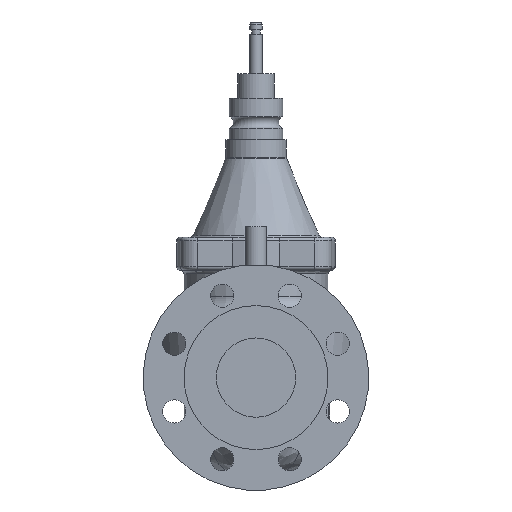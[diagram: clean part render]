
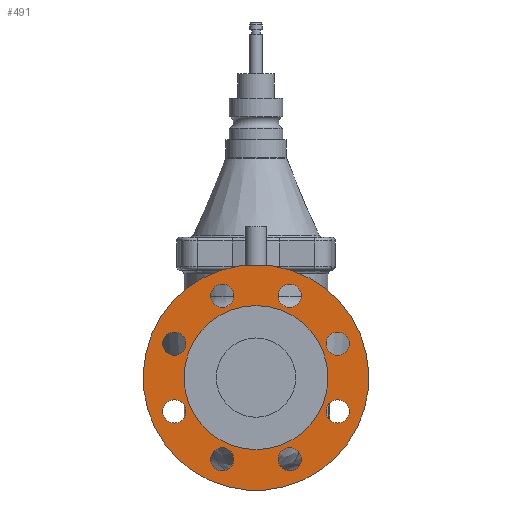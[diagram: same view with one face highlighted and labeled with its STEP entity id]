
A CAD part, left-side view. The second image highlights one B-rep face of the part: STEP entity #491.
In plain terms, the highlighted planar face has unit normal (-1, 0, 0).
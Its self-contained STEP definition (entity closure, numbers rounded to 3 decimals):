
#182=FACE_BOUND('',#932,.T.);
#183=FACE_BOUND('',#933,.T.);
#184=FACE_BOUND('',#934,.T.);
#185=FACE_BOUND('',#935,.T.);
#186=FACE_BOUND('',#936,.T.);
#187=FACE_BOUND('',#937,.T.);
#188=FACE_BOUND('',#938,.T.);
#189=FACE_BOUND('',#939,.T.);
#190=FACE_BOUND('',#940,.T.);
#191=FACE_BOUND('',#941,.T.);
#491=ADVANCED_FACE('',(#182,#183,#184,#185,#186,#187,#188,#189,#190,#191),
#648,.F.);
#648=PLANE('',#3229);
#932=EDGE_LOOP('',(#1530));
#933=EDGE_LOOP('',(#1531));
#934=EDGE_LOOP('',(#1532));
#935=EDGE_LOOP('',(#1533));
#936=EDGE_LOOP('',(#1534));
#937=EDGE_LOOP('',(#1535));
#938=EDGE_LOOP('',(#1536));
#939=EDGE_LOOP('',(#1537));
#940=EDGE_LOOP('',(#1538));
#941=EDGE_LOOP('',(#1539,#1540));
#1198=CIRCLE('',#3219,59.);
#1199=CIRCLE('',#3220,9.5);
#1200=CIRCLE('',#3221,9.5);
#1201=CIRCLE('',#3222,9.5);
#1202=CIRCLE('',#3223,9.5);
#1203=CIRCLE('',#3224,9.5);
#1204=CIRCLE('',#3225,9.5);
#1205=CIRCLE('',#3226,9.5);
#1206=CIRCLE('',#3227,9.5);
#1207=CIRCLE('',#3228,92.5);
#1530=ORIENTED_EDGE('',*,*,#2606,.F.);
#1531=ORIENTED_EDGE('',*,*,#2607,.T.);
#1532=ORIENTED_EDGE('',*,*,#2608,.T.);
#1533=ORIENTED_EDGE('',*,*,#2609,.T.);
#1534=ORIENTED_EDGE('',*,*,#2610,.T.);
#1535=ORIENTED_EDGE('',*,*,#2611,.T.);
#1536=ORIENTED_EDGE('',*,*,#2612,.T.);
#1537=ORIENTED_EDGE('',*,*,#2613,.T.);
#1538=ORIENTED_EDGE('',*,*,#2614,.T.);
#1539=ORIENTED_EDGE('',*,*,#2615,.F.);
#1540=ORIENTED_EDGE('',*,*,#2616,.T.);
#2322=VERTEX_POINT('',#5410);
#2323=VERTEX_POINT('',#5412);
#2324=VERTEX_POINT('',#5414);
#2325=VERTEX_POINT('',#5416);
#2326=VERTEX_POINT('',#5418);
#2327=VERTEX_POINT('',#5420);
#2328=VERTEX_POINT('',#5422);
#2329=VERTEX_POINT('',#5424);
#2330=VERTEX_POINT('',#5426);
#2331=VERTEX_POINT('',#5428);
#2332=VERTEX_POINT('',#5429);
#2606=EDGE_CURVE('',#2322,#2322,#1198,.T.);
#2607=EDGE_CURVE('',#2323,#2323,#1199,.T.);
#2608=EDGE_CURVE('',#2324,#2324,#1200,.T.);
#2609=EDGE_CURVE('',#2325,#2325,#1201,.T.);
#2610=EDGE_CURVE('',#2326,#2326,#1202,.T.);
#2611=EDGE_CURVE('',#2327,#2327,#1203,.T.);
#2612=EDGE_CURVE('',#2328,#2328,#1204,.T.);
#2613=EDGE_CURVE('',#2329,#2329,#1205,.T.);
#2614=EDGE_CURVE('',#2330,#2330,#1206,.T.);
#2615=EDGE_CURVE('',#2331,#2332,#2889,.T.);
#2616=EDGE_CURVE('',#2331,#2332,#1207,.T.);
#2889=LINE('',#5427,#3008);
#3008=VECTOR('',#3794,1.);
#3219=AXIS2_PLACEMENT_3D('',#5409,#3776,#3777);
#3220=AXIS2_PLACEMENT_3D('',#5411,#3778,#3779);
#3221=AXIS2_PLACEMENT_3D('',#5413,#3780,#3781);
#3222=AXIS2_PLACEMENT_3D('',#5415,#3782,#3783);
#3223=AXIS2_PLACEMENT_3D('',#5417,#3784,#3785);
#3224=AXIS2_PLACEMENT_3D('',#5419,#3786,#3787);
#3225=AXIS2_PLACEMENT_3D('',#5421,#3788,#3789);
#3226=AXIS2_PLACEMENT_3D('',#5423,#3790,#3791);
#3227=AXIS2_PLACEMENT_3D('',#5425,#3792,#3793);
#3228=AXIS2_PLACEMENT_3D('',#5430,#3795,#3796);
#3229=AXIS2_PLACEMENT_3D('',#5431,#3797,#3798);
#3776=DIRECTION('',(-1.,0.,0.));
#3777=DIRECTION('',(0.,0.,1.));
#3778=DIRECTION('',(1.,0.,0.));
#3779=DIRECTION('',(0.,0.,-1.));
#3780=DIRECTION('',(1.,0.,0.));
#3781=DIRECTION('',(0.,0.,-1.));
#3782=DIRECTION('',(1.,0.,0.));
#3783=DIRECTION('',(0.,0.,-1.));
#3784=DIRECTION('',(1.,0.,0.));
#3785=DIRECTION('',(0.,0.,-1.));
#3786=DIRECTION('',(1.,0.,0.));
#3787=DIRECTION('',(0.,0.,-1.));
#3788=DIRECTION('',(1.,0.,0.));
#3789=DIRECTION('',(0.,0.,-1.));
#3790=DIRECTION('',(1.,0.,0.));
#3791=DIRECTION('',(0.,0.,-1.));
#3792=DIRECTION('',(1.,0.,0.));
#3793=DIRECTION('',(0.,0.,-1.));
#3794=DIRECTION('',(0.,-1.,0.));
#3795=DIRECTION('',(-1.,0.,0.));
#3796=DIRECTION('',(0.,0.,1.));
#3797=DIRECTION('',(1.,0.,0.));
#3798=DIRECTION('',(0.,0.,1.));
#5409=CARTESIAN_POINT('',(-142.,0.,0.));
#5410=CARTESIAN_POINT('',(-142.,0.,59.));
#5411=CARTESIAN_POINT('',(-142.,27.745,-66.981));
#5412=CARTESIAN_POINT('',(-142.,27.745,-76.481));
#5413=CARTESIAN_POINT('',(-142.,66.981,-27.745));
#5414=CARTESIAN_POINT('',(-142.,66.981,-37.245));
#5415=CARTESIAN_POINT('',(-142.,66.981,27.745));
#5416=CARTESIAN_POINT('',(-142.,66.981,18.245));
#5417=CARTESIAN_POINT('',(-142.,27.745,66.981));
#5418=CARTESIAN_POINT('',(-142.,27.745,57.481));
#5419=CARTESIAN_POINT('',(-142.,-27.745,66.981));
#5420=CARTESIAN_POINT('',(-142.,-27.745,57.481));
#5421=CARTESIAN_POINT('',(-142.,-66.981,27.745));
#5422=CARTESIAN_POINT('',(-142.,-66.981,18.245));
#5423=CARTESIAN_POINT('',(-142.,-66.981,-27.745));
#5424=CARTESIAN_POINT('',(-142.,-66.981,-37.245));
#5425=CARTESIAN_POINT('',(-142.,-27.745,-66.981));
#5426=CARTESIAN_POINT('',(-142.,-27.745,-76.481));
#5427=CARTESIAN_POINT('',(-142.,0.,91.5));
#5428=CARTESIAN_POINT('',(-142.,13.565,91.5));
#5429=CARTESIAN_POINT('',(-142.,-13.565,91.5));
#5430=CARTESIAN_POINT('',(-142.,0.,0.));
#5431=CARTESIAN_POINT('',(-142.,0.,-59.));
